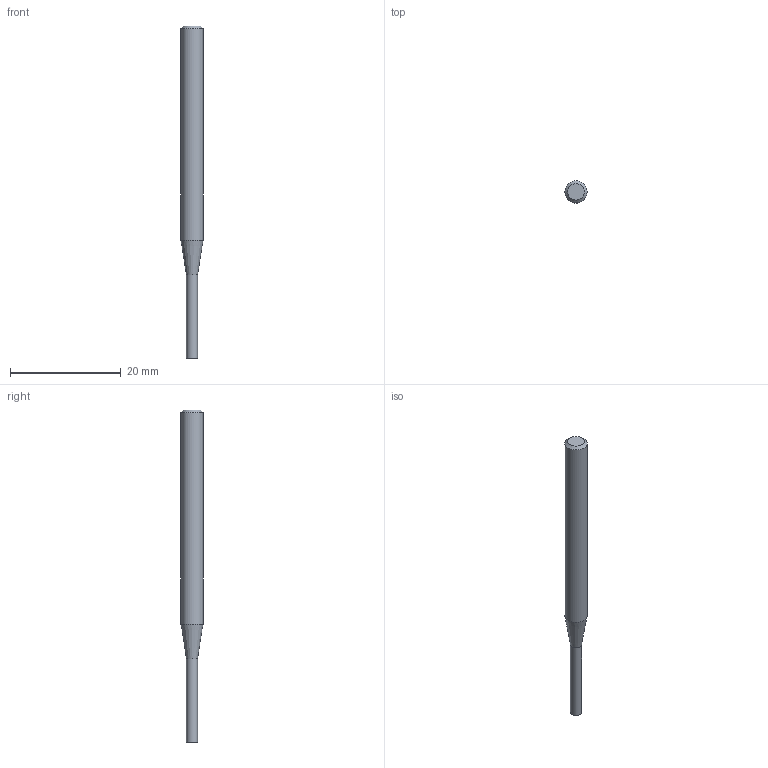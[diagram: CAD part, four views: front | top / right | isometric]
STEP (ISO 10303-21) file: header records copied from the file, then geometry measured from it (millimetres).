
FILE_DESCRIPTION((''),'2;1');
FILE_NAME('C:\Users\nsx150\Desktop\RSE230_20210427\01-00644-02003 RSE230 D2X15.step','2021-05-07T14:53:38',(''),(''),'STEP Write','Mastercam 2021 ... CNC Software, Inc.','');
FILE_SCHEMA(('AUTOMOTIVE_DESIGN'));
Length unit declared in the file: millimetre
Products named in the file (1): None
Bounding box: 4 x 4 x 60 mm (x, y, z)
Volume: 578.1 mm3; surface area: 658.6 mm2
Topology: 2 solids, 2 shells, 8 faces, 10 edges, 6 vertices
Faces by surface type: plane 4, cylinder 2, cone 2
Full cylindrical faces by diameter (mm): 2 x1, 4 x1
Entity records: 190 total; most frequent: DIRECTION 32, CARTESIAN_POINT 22, AXIS2_PLACEMENT_3D 16, ORIENTED_EDGE 12, EDGE_LOOP 12, STYLED_ITEM 11, ADVANCED_FACE 8, VERTEX_POINT 6
